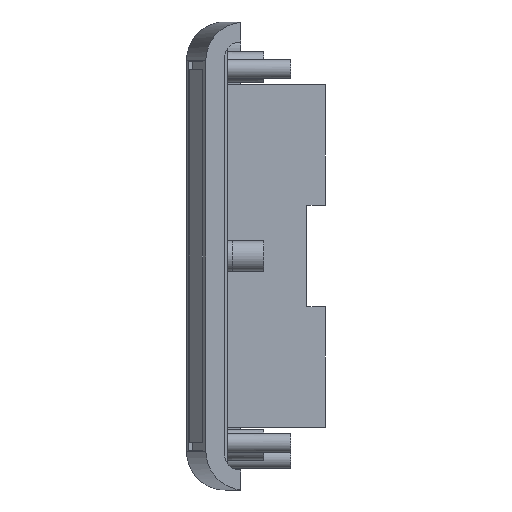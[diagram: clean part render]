
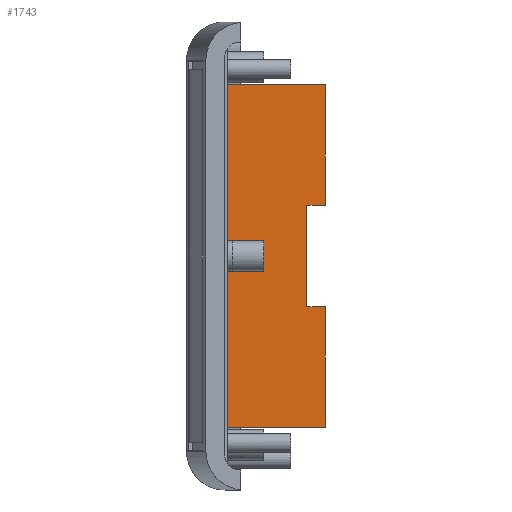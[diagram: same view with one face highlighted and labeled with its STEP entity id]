
A CAD part, left-side view. The second image highlights one B-rep face of the part: STEP entity #1743.
In plain terms, the highlighted planar face has unit normal (-1, 0, 0).
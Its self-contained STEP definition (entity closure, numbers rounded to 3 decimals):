
#17 = DIRECTION ( 'NONE',  ( 0., 1., 0. ) ) ;
#20 = VECTOR ( 'NONE', #17, 1000. ) ;
#34 = VERTEX_POINT ( 'NONE', #903 ) ;
#74 = CARTESIAN_POINT ( 'NONE',  ( 11.4, -11., -22.2 ) ) ;
#89 = DIRECTION ( 'NONE',  ( 0., 0., -1. ) ) ;
#122 = EDGE_CURVE ( 'NONE', #930, #3369, #2258, .T. ) ;
#127 = VECTOR ( 'NONE', #89, 1000. ) ;
#138 = LINE ( 'NONE', #194, #838 ) ;
#151 = DIRECTION ( 'NONE',  ( 0., 1., 0. ) ) ;
#194 = CARTESIAN_POINT ( 'NONE',  ( 11.4, -11., 22.2 ) ) ;
#261 = AXIS2_PLACEMENT_3D ( 'NONE', #2839, #1146, #3114 ) ;
#319 = LINE ( 'NONE', #2191, #3241 ) ;
#402 = CARTESIAN_POINT ( 'NONE',  ( 11.4, 5., -22.2 ) ) ;
#472 = VERTEX_POINT ( 'NONE', #2862 ) ;
#480 = LINE ( 'NONE', #1449, #1243 ) ;
#644 = EDGE_CURVE ( 'NONE', #3240, #729, #2977, .T. ) ;
#659 = VECTOR ( 'NONE', #1726, 1000. ) ;
#660 = ORIENTED_EDGE ( 'NONE', *, *, #644, .F. ) ;
#692 = ORIENTED_EDGE ( 'NONE', *, *, #122, .F. ) ;
#729 = VERTEX_POINT ( 'NONE', #2245 ) ;
#778 = ORIENTED_EDGE ( 'NONE', *, *, #3559, .T. ) ;
#838 = VECTOR ( 'NONE', #2210, 1000. ) ;
#848 = LINE ( 'NONE', #3686, #659 ) ;
#859 = PLANE ( 'NONE',  #261 ) ;
#875 = DIRECTION ( 'NONE',  ( 0., 0., -1. ) ) ;
#903 = CARTESIAN_POINT ( 'NONE',  ( 11.4, -11., 22.2 ) ) ;
#930 = VERTEX_POINT ( 'NONE', #1054 ) ;
#1054 = CARTESIAN_POINT ( 'NONE',  ( 11.4, -11., -22.2 ) ) ;
#1146 = DIRECTION ( 'NONE',  ( 1., 0., 0. ) ) ;
#1243 = VECTOR ( 'NONE', #875, 1000. ) ;
#1428 = VERTEX_POINT ( 'NONE', #3662 ) ;
#1449 = CARTESIAN_POINT ( 'NONE',  ( 11.4, -8.6, -6.6 ) ) ;
#1482 = EDGE_CURVE ( 'NONE', #729, #472, #480, .T. ) ;
#1530 = DIRECTION ( 'NONE',  ( 0., 0., -1. ) ) ;
#1591 = VECTOR ( 'NONE', #151, 1000. ) ;
#1601 = EDGE_LOOP ( 'NONE', ( #2470, #1910, #2643, #660, #2363, #2000, #778, #692 ) ) ;
#1726 = DIRECTION ( 'NONE',  ( 0., -1., 0. ) ) ;
#1743 = ADVANCED_FACE ( 'NONE', ( #3175 ), #859, .F. ) ;
#1812 = CARTESIAN_POINT ( 'NONE',  ( 11.4, -11., 22.2 ) ) ;
#1910 = ORIENTED_EDGE ( 'NONE', *, *, #2793, .F. ) ;
#1991 = CARTESIAN_POINT ( 'NONE',  ( 11.4, 5., 22.2 ) ) ;
#2000 = ORIENTED_EDGE ( 'NONE', *, *, #2296, .T. ) ;
#2191 = CARTESIAN_POINT ( 'NONE',  ( 11.4, -11., 22.2 ) ) ;
#2210 = DIRECTION ( 'NONE',  ( 0., 1., 0. ) ) ;
#2245 = CARTESIAN_POINT ( 'NONE',  ( 11.4, -8.6, 6.6 ) ) ;
#2258 = LINE ( 'NONE', #74, #1591 ) ;
#2296 = EDGE_CURVE ( 'NONE', #34, #2429, #138, .T. ) ;
#2363 = ORIENTED_EDGE ( 'NONE', *, *, #3286, .F. ) ;
#2429 = VERTEX_POINT ( 'NONE', #1991 ) ;
#2463 = CARTESIAN_POINT ( 'NONE',  ( 11.4, -11., 6.6 ) ) ;
#2470 = ORIENTED_EDGE ( 'NONE', *, *, #3311, .F. ) ;
#2600 = CARTESIAN_POINT ( 'NONE',  ( 11.4, -11., 6.6 ) ) ;
#2643 = ORIENTED_EDGE ( 'NONE', *, *, #1482, .F. ) ;
#2793 = EDGE_CURVE ( 'NONE', #472, #1428, #848, .T. ) ;
#2839 = CARTESIAN_POINT ( 'NONE',  ( 11.4, -11., 22.2 ) ) ;
#2860 = VECTOR ( 'NONE', #2911, 1000. ) ;
#2862 = CARTESIAN_POINT ( 'NONE',  ( 11.4, -8.6, -6.6 ) ) ;
#2911 = DIRECTION ( 'NONE',  ( 0., 0., -1. ) ) ;
#2946 = LINE ( 'NONE', #3345, #2860 ) ;
#2977 = LINE ( 'NONE', #2600, #20 ) ;
#3114 = DIRECTION ( 'NONE',  ( 0., 0., -1. ) ) ;
#3161 = LINE ( 'NONE', #1812, #127 ) ;
#3175 = FACE_OUTER_BOUND ( 'NONE', #1601, .T. ) ;
#3240 = VERTEX_POINT ( 'NONE', #2463 ) ;
#3241 = VECTOR ( 'NONE', #1530, 1000. ) ;
#3286 = EDGE_CURVE ( 'NONE', #34, #3240, #319, .T. ) ;
#3311 = EDGE_CURVE ( 'NONE', #1428, #930, #3161, .T. ) ;
#3345 = CARTESIAN_POINT ( 'NONE',  ( 11.4, 5., 22.2 ) ) ;
#3369 = VERTEX_POINT ( 'NONE', #402 ) ;
#3559 = EDGE_CURVE ( 'NONE', #2429, #3369, #2946, .T. ) ;
#3662 = CARTESIAN_POINT ( 'NONE',  ( 11.4, -11., -6.6 ) ) ;
#3686 = CARTESIAN_POINT ( 'NONE',  ( 11.4, -11., -6.6 ) ) ;
